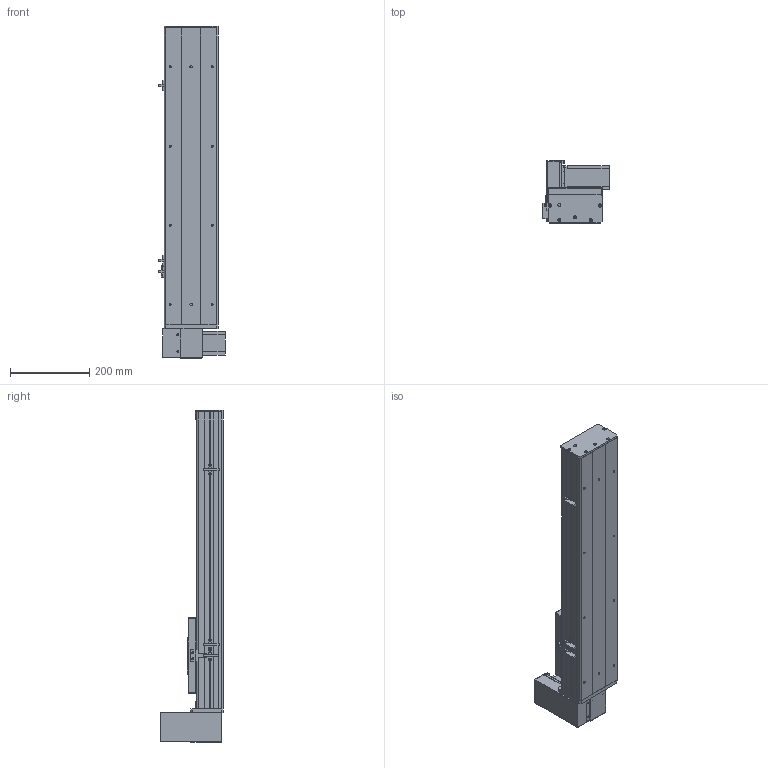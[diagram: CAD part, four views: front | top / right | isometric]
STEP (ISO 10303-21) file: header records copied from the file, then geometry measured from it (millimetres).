
FILE_DESCRIPTION (( 'STEP AP203' ), '1' );
FILE_NAME ('Y135CB-D90-S450-UR-P400W.STEP', '2020-02-18T03:53:12', ( '微软用户' ), ( '微软中国' ), 'SwSTEP 2.0', 'SolidWorks 2017', '' );
FILE_SCHEMA (( 'CONFIG_CONTROL_DESIGN' ));
Length unit declared in the file: millimetre
Products named in the file (18): Y10B-耜蚾蟀諉啣----; 5C--俋欶; 0B-源倛裔啣; 00B-俋欶BM--; C-雄赽釱--; 0B-萇儂楊擘啣; Y135CB-D90-S450-UR-P400W; san松下电机400不带刹车----; 5CB --掛极耜裔啣-; C-詩湍揤踡え-陔; Y135CB-耜裔; 135CB--詩湍-CE; 135CB---遴掛极.-; Y100-135俋离換覜ん--; 35CB---喘謫眊楊擘啣; Y10B--々湍喘謫眊--666; Y135C-陔俋离換覜結え-; 0B-埴倛裔啣
Assembly tree (21 placements, depth 2):
  Y135CB-D90-S450-UR-P400W
    Y135CB-耜裔
    135CB---遴掛极.-
    35CB---喘謫眊楊擘啣
    0B-埴倛裔啣
    0B-源倛裔啣
    0B-萇儂楊擘啣
    san松下电机400不带刹车----
    5CB --掛极耜裔啣-  x2
    C-詩湍揤踡え-陔  x2
    135CB--詩湍-CE
    Y100-135俋离換覜ん--  x3
    Y135C-陔俋离換覜結え-
    5C--俋欶
    C-雄赽釱--
    Y10B--々湍喘謫眊--666
    Y10B-耜蚾蟀諉啣----
    00B-俋欶BM--
Bounding box: 167.5 x 158.7 x 838 mm (x, y, z)
Volume: 2958208.4 mm3; surface area: 1142806.8 mm2
Topology: 21 solids, 21 shells, 933 faces, 2473 edges, 1638 vertices
Faces by surface type: cylinder 461, plane 456, cone 16
Entity records: 28743 total; most frequent: DIRECTION 4773, CARTESIAN_POINT 4680, ORIENTED_EDGE 4422, EDGE_CURVE 2211, AXIS2_PLACEMENT_3D 1735, VERTEX_POINT 1466, LINE 1303, VECTOR 1303
